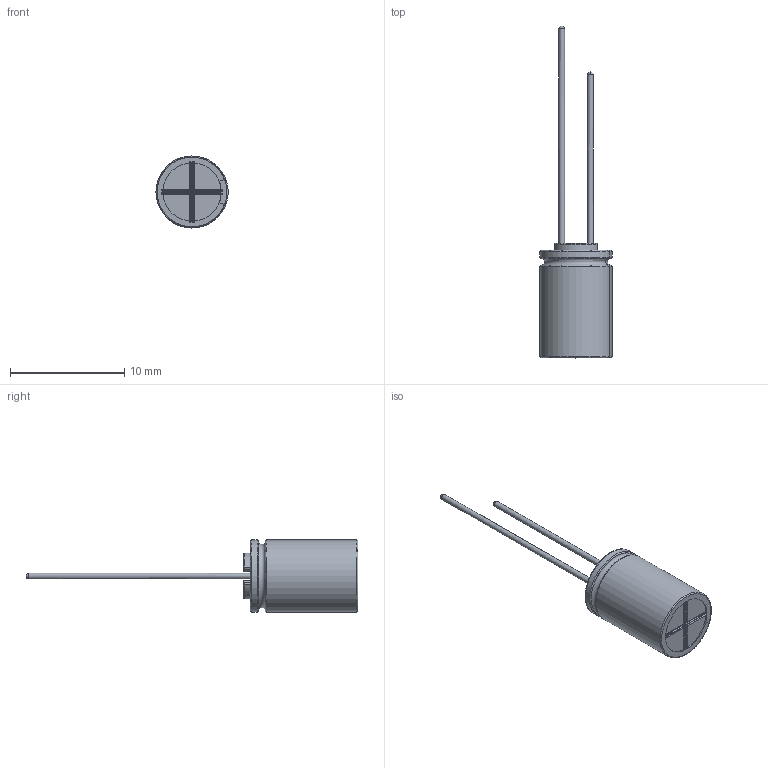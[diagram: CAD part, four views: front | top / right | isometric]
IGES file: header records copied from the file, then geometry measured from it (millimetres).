
Start section: JAMA-IS VERSION  1.0
Bounding box: 6.29 x 29 x 6.3 mm (x, y, z)
Surface area: 732.7 mm2 (no closed solid volume)
Topology: 0 solids, 0 shells, 120 faces, 1287 edges, 1276 vertices
Faces by surface type: bspline 120
